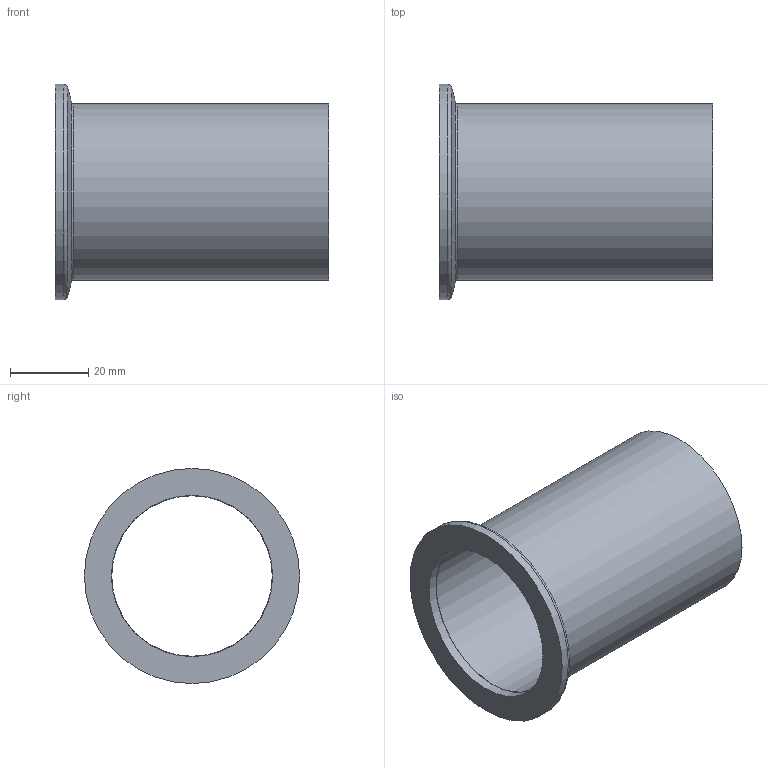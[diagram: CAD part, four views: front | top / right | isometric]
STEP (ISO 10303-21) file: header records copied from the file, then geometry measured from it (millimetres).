
FILE_DESCRIPTION(/* description */ (''),/* implementation_level */ '2;1');
FILE_NAME(/* name */ '18284.step',/* time_stamp */ '2015-02-11T17:22:36+08:00',/* author */ (''),/* organization */ (''),/* preprocessor_version */ 'ST-DEVELOPER v11',/* originating_system */ 'SIEMENS UGS NX 6.0',/* authorisation */ '');
FILE_SCHEMA (('AUTOMOTIVE_DESIGN { 1 0 10303 214 1 1 1 1 }'));
Length unit declared in the file: millimetre
Products named in the file (1): 18284
Bounding box: 70 x 55 x 55 mm (x, y, z)
Volume: 21731.3 mm3; surface area: 20899.3 mm2
Topology: 1 solids, 1 shells, 10 faces, 17 edges, 10 vertices
Faces by surface type: cylinder 4, plane 3, torus 2, cone 1
Full cylindrical faces by diameter (mm): 41 x1, 41.2 x1, 45 x1, 55 x1
Entity records: 232 total; most frequent: DIRECTION 42, CARTESIAN_POINT 31, AXIS2_PLACEMENT_3D 21, FACE_BOUND 20, EDGE_LOOP 20, ORIENTED_EDGE 20, ADVANCED_FACE 10, VERTEX_POINT 10
